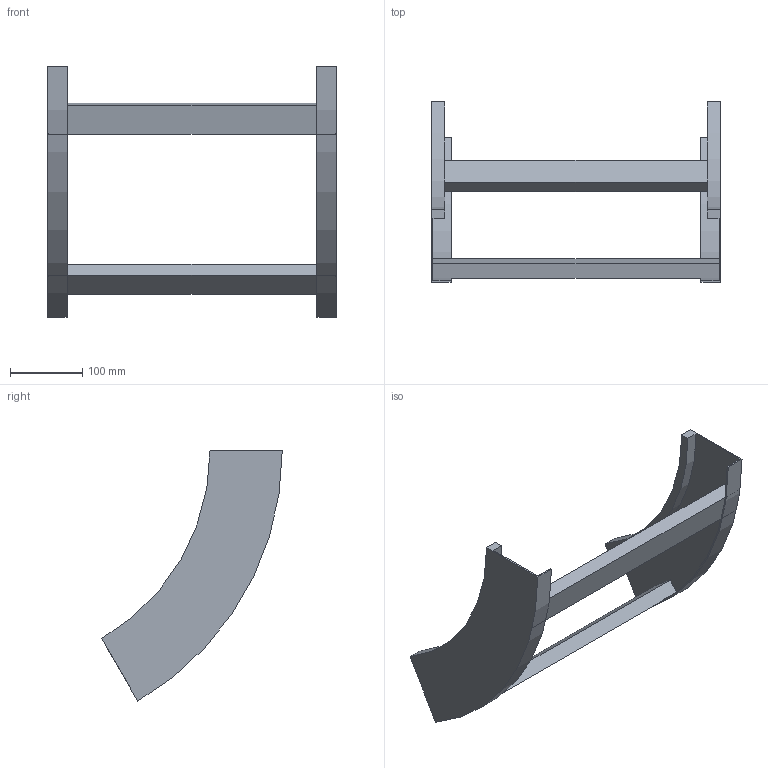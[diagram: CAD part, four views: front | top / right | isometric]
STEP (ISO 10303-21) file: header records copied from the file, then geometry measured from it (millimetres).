
FILE_DESCRIPTION (( 'STEP AP214' ), '1' );
FILE_NAME ('B2X40B3D400XX.step', '2025-03-20T10:12:55', ( '' ), ( '' ), 'SwSTEP 2.0', 'SolidWorks 2023', '' );
FILE_SCHEMA (( 'AUTOMOTIVE_DESIGN' ));
Length unit declared in the file: millimetre
Products named in the file (3): B2_LONGH.SALITA_60°_H100_R300; TRAVERSINO_400; B2X40B3D400XX
Assembly tree (4 placements, depth 2):
  B2X40B3D400XX
    B2_LONGH.SALITA_60°_H100_R300  x2
    TRAVERSINO_400  x2
Bounding box: 400 x 250 x 346.41 mm (x, y, z)
Volume: 952960.7 mm3; surface area: 312671.3 mm2
Topology: 4 solids, 4 shells, 32 faces, 72 edges, 48 vertices
Faces by surface type: plane 24, cylinder 8
Entity records: 552 total; most frequent: DIRECTION 90, CARTESIAN_POINT 83, ORIENTED_EDGE 72, EDGE_CURVE 36, AXIS2_PLACEMENT_3D 31, VECTOR 28, LINE 28, VERTEX_POINT 24
